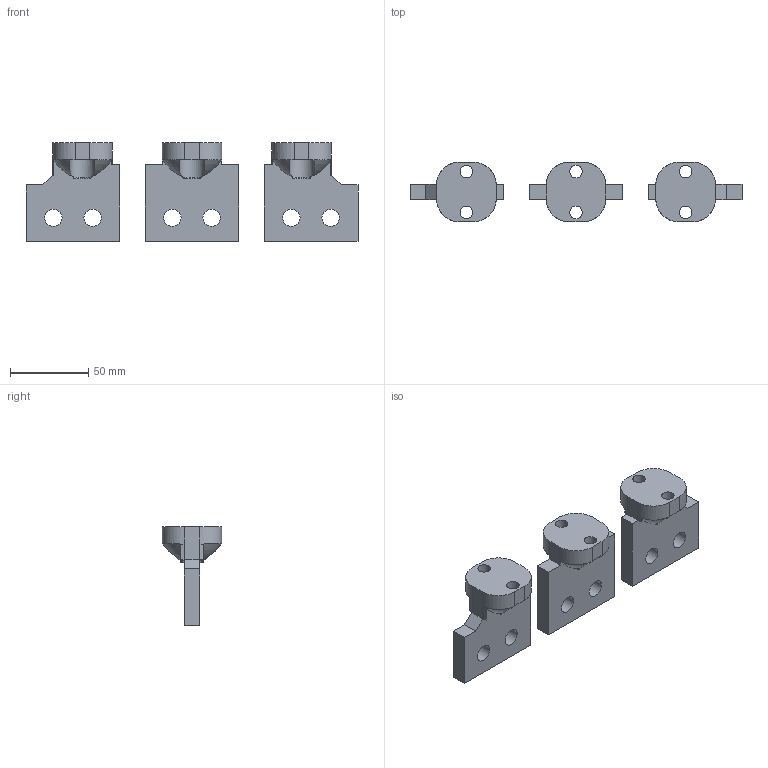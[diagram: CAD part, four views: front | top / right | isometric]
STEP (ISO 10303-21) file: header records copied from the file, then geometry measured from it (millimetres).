
FILE_DESCRIPTION(('STEP AP203'), '1');
FILE_NAME('Âûâîäû ãîðèç. 10ìì âåðõ', '', ('UNSPECIFIED'), ('UNSPECIFIED'), 'C3D Converter', 'C3D Toolkit', '');
FILE_SCHEMA(('CONFIG_CONTROL_DESIGN'));
Length unit declared in the file: millimetre
Assembly tree (3 placements, depth 2):
  (unnamed)
    (unnamed)
    (unnamed)
    (unnamed)
Bounding box: 212 x 38 x 63 mm (x, y, z)
Volume: 127498.9 mm3; surface area: 36599.2 mm2
Topology: 3 solids, 3 shells, 174 faces, 450 edges, 282 vertices
Faces by surface type: plane 102, cylinder 30, bspline 26, torus 16
Full cylindrical faces by diameter (mm): 8 x6, 11 x6
Entity records: 9124 total; most frequent: CARTESIAN_POINT 3488, ORIENTED_EDGE 876, DIRECTION 748, EDGE_CURVE 438, VERTEX_POINT 282, AXIS2_PLACEMENT_3D 250, LINE 248, VECTOR 248
